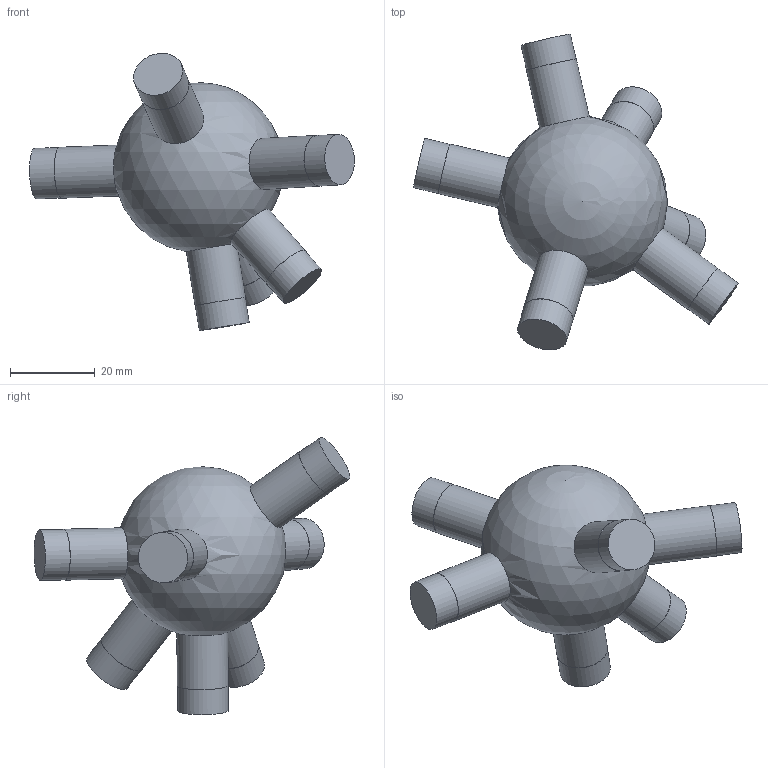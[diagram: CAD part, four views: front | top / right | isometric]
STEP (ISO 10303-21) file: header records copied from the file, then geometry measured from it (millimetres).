
FILE_DESCRIPTION(('Open CASCADE Model'),'2;1');
FILE_NAME('Open CASCADE Shape Model','2026-10-21T12:47:57',('Author'),( 'Open CASCADE'),'Open CASCADE STEP processor 7.9','Open CASCADE 7.9' ,'Unknown');
FILE_SCHEMA(('AUTOMOTIVE_DESIGN { 1 0 10303 214 1 1 1 1 }'));
Length unit declared in the file: millimetre
Products named in the file (1): Open CASCADE STEP translator 7.9 77
Bounding box: 76.46 x 74.35 x 65.31 mm (x, y, z)
Volume: 48901.8 mm3; surface area: 10273.2 mm2
Topology: 1 solids, 1 shells, 30 faces, 52 edges, 35 vertices
Faces by surface type: cylinder 14, plane 14, sphere 2
Full cylindrical faces by diameter (mm): 11.9 x7, 12 x7
Entity records: 1898 total; most frequent: CARTESIAN_POINT 740, DIRECTION 236, ORIENTED_EDGE 102, PCURVE 102, DEFINITIONAL_REPRESENTATION 102, LINE 79, VECTOR 79, AXIS2_PLACEMENT_3D 68
